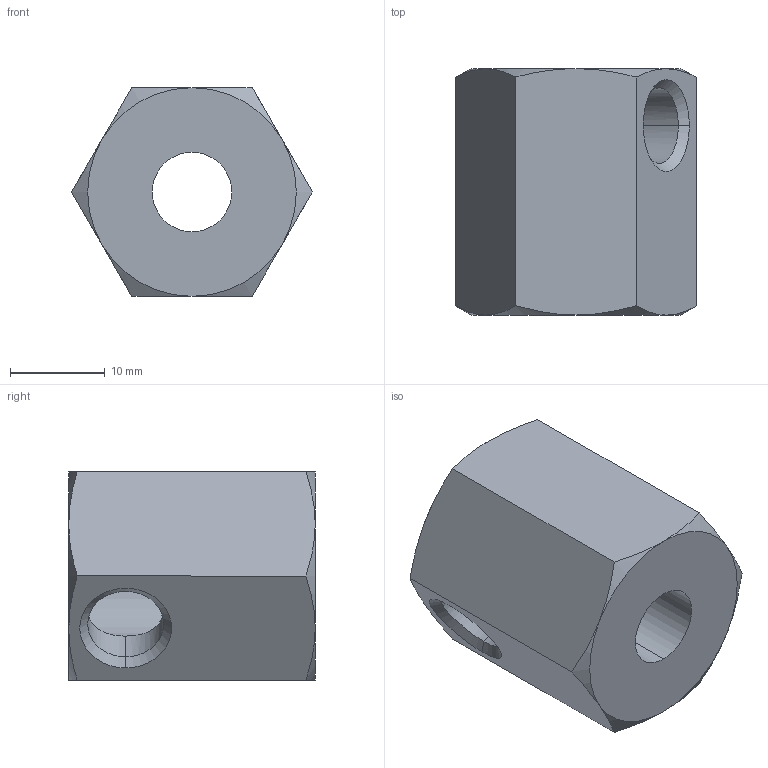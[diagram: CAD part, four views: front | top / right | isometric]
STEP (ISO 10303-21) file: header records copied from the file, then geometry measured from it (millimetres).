
FILE_DESCRIPTION (( 'STEP AP203' ), '1' );
FILE_NAME ('30400.W0045.step', '2011-03-01T17:12:17', ( 'Wixroyd' ), ( 'Wixroyd' ), 'SwSTEP 2.0', 'SolidWorks 2009', '' );
FILE_SCHEMA (( 'CONFIG_CONTROL_DESIGN' ));
Length unit declared in the file: millimetre
Products named in the file (1): 30400.W0045
Bounding box: 25.4 x 26 x 22 mm (x, y, z)
Volume: 7210.2 mm3; surface area: 3676.8 mm2
Topology: 1 solids, 1 shells, 33 faces, 74 edges, 44 vertices
Faces by surface type: cone 16, plane 9, cylinder 8
Entity records: 1221 total; most frequent: CARTESIAN_POINT 432, ORIENTED_EDGE 148, DIRECTION 142, EDGE_CURVE 74, AXIS2_PLACEMENT_3D 62, VERTEX_POINT 44, EDGE_LOOP 40, ADVANCED_FACE 33
